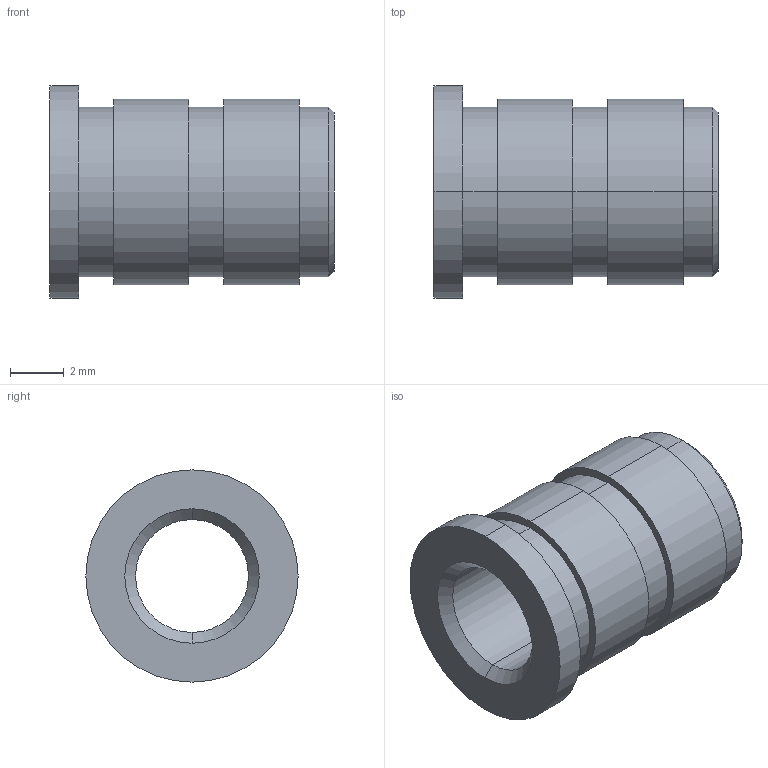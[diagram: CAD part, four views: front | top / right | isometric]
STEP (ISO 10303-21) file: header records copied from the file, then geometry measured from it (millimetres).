
FILE_DESCRIPTION (( 'STEP AP203' ), '1' );
FILE_NAME ('FSUK-HIHLH-M05-S.STEP', '2021-04-15T12:57:10', ( '' ), ( '' ), 'SwSTEP 2.0', 'SolidWorks 2021', '' );
FILE_SCHEMA (( 'CONFIG_CONTROL_DESIGN' ));
Length unit declared in the file: millimetre
Products named in the file (1): FSUK-HIHLH-M05-S
Bounding box: 10.57 x 7.9 x 7.9 mm (x, y, z)
Volume: 234.3 mm3; surface area: 451.7 mm2
Topology: 1 solids, 1 shells, 27 faces, 54 edges, 34 vertices
Faces by surface type: cylinder 14, plane 7, cone 6
Entity records: 795 total; most frequent: DIRECTION 144, CARTESIAN_POINT 116, ORIENTED_EDGE 108, AXIS2_PLACEMENT_3D 62, EDGE_CURVE 54, CIRCLE 34, VERTEX_POINT 34, EDGE_LOOP 34
